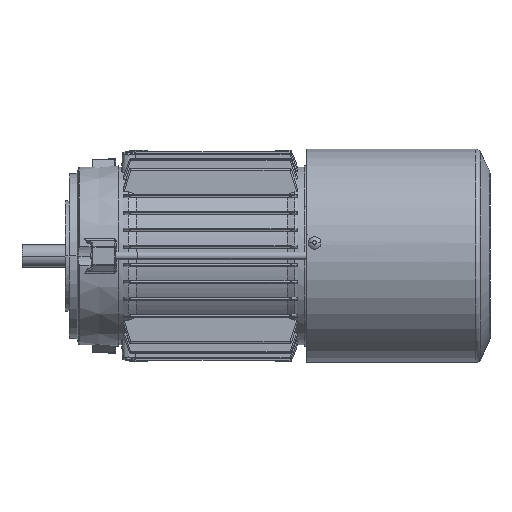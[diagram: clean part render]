
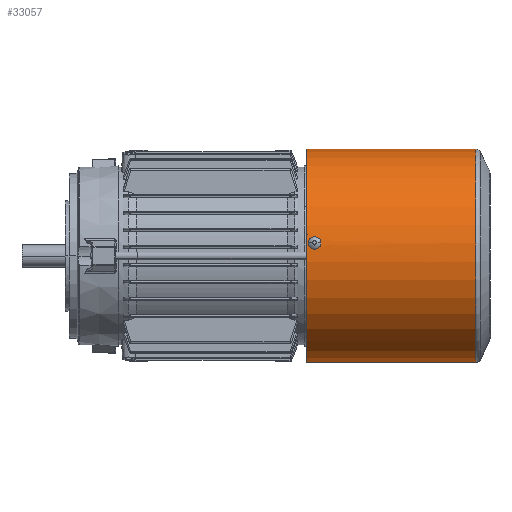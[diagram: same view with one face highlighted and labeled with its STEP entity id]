
A CAD part, front view. The second image highlights one B-rep face of the part: STEP entity #33057.
In plain terms, the highlighted cylindrical face has radius 68 mm (diameter 136 mm), a partial arc.
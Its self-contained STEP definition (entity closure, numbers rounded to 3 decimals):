
#761 = CARTESIAN_POINT ( 'NONE',  ( -1.987, 111.762, 67.971 ) ) ;
#1088 = CARTESIAN_POINT ( 'NONE',  ( 0.134, 113.5, 68. ) ) ;
#4831 = CARTESIAN_POINT ( 'NONE',  ( 1.321, 109.992, 67.987 ) ) ;
#5174 = CARTESIAN_POINT ( 'NONE',  ( -1.591, 110.281, 67.981 ) ) ;
#8825 = CARTESIAN_POINT ( 'NONE',  ( -1.898, 112.145, 67.974 ) ) ;
#9028 = CIRCLE ( 'NONE', #28108, 68. ) ;
#9161 = CARTESIAN_POINT ( 'NONE',  ( 0.519, 113.436, 67.998 ) ) ;
#12893 = CARTESIAN_POINT ( 'NONE',  ( 1.003, 109.765, 67.993 ) ) ;
#13058 = VECTOR ( 'NONE', #71489, 1000. ) ;
#13243 = CARTESIAN_POINT ( 'NONE',  ( -1.797, 110.613, 67.976 ) ) ;
#15516 = LINE ( 'NONE', #55661, #13058 ) ;
#15671 = CARTESIAN_POINT ( 'NONE',  ( 0., 139.861, 0. ) ) ;
#16860 = CARTESIAN_POINT ( 'NONE',  ( -1.736, 112.502, 67.978 ) ) ;
#17196 = CARTESIAN_POINT ( 'NONE',  ( 0.888, 113.297, 67.994 ) ) ;
#20948 = CARTESIAN_POINT ( 'NONE',  ( 0.643, 109.602, 67.997 ) ) ;
#21292 = CARTESIAN_POINT ( 'NONE',  ( -1.936, 110.982, 67.972 ) ) ;
#23268 = AXIS2_PLACEMENT_3D ( 'NONE', #41892, #98078, #50019 ) ;
#23308 = VERTEX_POINT ( 'NONE', #83995 ) ;
#23776 = DIRECTION ( 'NONE',  ( 0., 1., 0. ) ) ;
#24937 = CARTESIAN_POINT ( 'NONE',  ( -1.506, 112.822, 67.983 ) ) ;
#25278 = CARTESIAN_POINT ( 'NONE',  ( 1.22, 113.09, 67.989 ) ) ;
#25743 = ORIENTED_EDGE ( 'NONE', *, *, #82461, .F. ) ;
#25772 = DIRECTION ( 'NONE',  ( 0., 1., 0. ) ) ;
#28108 = AXIS2_PLACEMENT_3D ( 'NONE', #73952, #25772, #81965 ) ;
#28669 = CARTESIAN_POINT ( 'NONE',  ( 2., 111.5, 67.971 ) ) ;
#29028 = CARTESIAN_POINT ( 'NONE',  ( 0.262, 109.513, 68. ) ) ;
#29385 = CARTESIAN_POINT ( 'NONE',  ( -2., 111.368, 67.971 ) ) ;
#29655 = VERTEX_POINT ( 'NONE', #32292 ) ;
#32292 = CARTESIAN_POINT ( 'NONE',  ( -68., 9.011, 0. ) ) ;
#33018 = CARTESIAN_POINT ( 'NONE',  ( -1.221, 113.089, 67.989 ) ) ;
#33057 = ADVANCED_FACE ( 'NONE', ( #93082, #74230 ), #50358, .T. ) ;
#33362 = CARTESIAN_POINT ( 'NONE',  ( 1.6, 112.729, 67.981 ) ) ;
#33619 = CARTESIAN_POINT ( 'NONE',  ( -68., 139.861, 0. ) ) ;
#36388 = CARTESIAN_POINT ( 'NONE',  ( 1.987, 111.237, 67.971 ) ) ;
#36729 = CARTESIAN_POINT ( 'NONE',  ( 1.898, 110.856, 67.974 ) ) ;
#37082 = CARTESIAN_POINT ( 'NONE',  ( -0.262, 109.5, 68. ) ) ;
#38518 = VECTOR ( 'NONE', #97555, 1000. ) ;
#41123 = CARTESIAN_POINT ( 'NONE',  ( -0.886, 113.298, 67.994 ) ) ;
#41471 = CARTESIAN_POINT ( 'NONE',  ( 1.948, 112.024, 67.972 ) ) ;
#41579 = CARTESIAN_POINT ( 'NONE',  ( 2., 111.5, 67.971 ) ) ;
#41892 = CARTESIAN_POINT ( 'NONE',  ( 0., 116.5, 0. ) ) ;
#44874 = CARTESIAN_POINT ( 'NONE',  ( 1.735, 110.497, 67.978 ) ) ;
#45222 = CARTESIAN_POINT ( 'NONE',  ( -1.006, 109.752, 67.993 ) ) ;
#47053 = ORIENTED_EDGE ( 'NONE', *, *, #100772, .T. ) ;
#48598 = CARTESIAN_POINT ( 'NONE',  ( 68., 116.5, 0. ) ) ;
#49024 = B_SPLINE_CURVE_WITH_KNOTS ( 'NONE', 3,
 ( #28669, #76832, #36388, #84866, #36729, #92980, #44874, #101026, #52932, #4831, #61032, #12893, #69113, #20948, #77171, #29028, #85218, #37082, #93310, #45222, #101365, #53280, #5174, #61379, #13243, #69479, #21292, #77512, #29385, #85585 ),
 .UNSPECIFIED., .F., .F.,
 ( 4, 2, 2, 2, 2, 2, 2, 2, 2, 2, 2, 2, 2, 2, 4 ),
 ( 0.003, 0.004, 0.004, 0.004, 0.005, 0.005, 0.005, 0.006, 0.006, 0.007, 0.008, 0.008, 0.009, 0.009, 0.009 ),
 .UNSPECIFIED. ) ;
#49234 = CARTESIAN_POINT ( 'NONE',  ( -0.263, 113.5, 68. ) ) ;
#49465 = EDGE_CURVE ( 'NONE', #29655, #23308, #81219, .T. ) ;
#49586 = CARTESIAN_POINT ( 'NONE',  ( 2., 111.5, 67.971 ) ) ;
#50019 = DIRECTION ( 'NONE',  ( -1., 0., 0. ) ) ;
#50344 = EDGE_LOOP ( 'NONE', ( #54025, #83463, #25743, #63714 ) ) ;
#50358 = CYLINDRICAL_SURFACE ( 'NONE', #60079, 68. ) ;
#51222 = EDGE_CURVE ( 'NONE', #91902, #61130, #49024, .T. ) ;
#52932 = CARTESIAN_POINT ( 'NONE',  ( 1.507, 110.179, 67.983 ) ) ;
#53280 = CARTESIAN_POINT ( 'NONE',  ( -1.506, 110.178, 67.983 ) ) ;
#54025 = ORIENTED_EDGE ( 'NONE', *, *, #104027, .T. ) ;
#55661 = CARTESIAN_POINT ( 'NONE',  ( 68., 139.861, 0. ) ) ;
#56931 = CARTESIAN_POINT ( 'NONE',  ( -1.936, 112.018, 67.972 ) ) ;
#57294 = CARTESIAN_POINT ( 'NONE',  ( 0.264, 113.487, 68. ) ) ;
#58859 = CARTESIAN_POINT ( 'NONE',  ( 68., 9.011, 0. ) ) ;
#60079 = AXIS2_PLACEMENT_3D ( 'NONE', #15671, #23776, #63866 ) ;
#61032 = CARTESIAN_POINT ( 'NONE',  ( 1.219, 109.909, 67.989 ) ) ;
#61130 = VERTEX_POINT ( 'NONE', #86340 ) ;
#61379 = CARTESIAN_POINT ( 'NONE',  ( -1.736, 110.498, 67.978 ) ) ;
#63714 = ORIENTED_EDGE ( 'NONE', *, *, #49465, .F. ) ;
#63866 = DIRECTION ( 'NONE',  ( -1., 0., 0. ) ) ;
#63997 = CARTESIAN_POINT ( 'NONE',  ( -2., 111.5, 67.971 ) ) ;
#65043 = CARTESIAN_POINT ( 'NONE',  ( -1.797, 112.387, 67.976 ) ) ;
#65387 = CARTESIAN_POINT ( 'NONE',  ( 0.646, 113.397, 67.997 ) ) ;
#69113 = CARTESIAN_POINT ( 'NONE',  ( 0.886, 109.702, 67.994 ) ) ;
#69479 = CARTESIAN_POINT ( 'NONE',  ( -1.898, 110.855, 67.974 ) ) ;
#71489 = DIRECTION ( 'NONE',  ( 0., 1., 0. ) ) ;
#73096 = CARTESIAN_POINT ( 'NONE',  ( -1.591, 112.719, 67.981 ) ) ;
#73104 = VERTEX_POINT ( 'NONE', #58859 ) ;
#73452 = CARTESIAN_POINT ( 'NONE',  ( 1.003, 113.235, 67.993 ) ) ;
#73952 = CARTESIAN_POINT ( 'NONE',  ( 0., 9.011, 0. ) ) ;
#74230 = FACE_OUTER_BOUND ( 'NONE', #50344, .T. ) ;
#74424 = ORIENTED_EDGE ( 'NONE', *, *, #51222, .T. ) ;
#76832 = CARTESIAN_POINT ( 'NONE',  ( 2., 111.37, 67.971 ) ) ;
#77171 = CARTESIAN_POINT ( 'NONE',  ( 0.519, 109.564, 67.998 ) ) ;
#77512 = CARTESIAN_POINT ( 'NONE',  ( -1.987, 111.238, 67.971 ) ) ;
#80066 = VERTEX_POINT ( 'NONE', #48598 ) ;
#81114 = CARTESIAN_POINT ( 'NONE',  ( -1.322, 113.007, 67.987 ) ) ;
#81219 = LINE ( 'NONE', #33619, #38518 ) ;
#81461 = CARTESIAN_POINT ( 'NONE',  ( 1.323, 113.005, 67.987 ) ) ;
#81965 = DIRECTION ( 'NONE',  ( -1., 0., 0. ) ) ;
#82461 = EDGE_CURVE ( 'NONE', #23308, #80066, #103229, .T. ) ;
#83463 = ORIENTED_EDGE ( 'NONE', *, *, #84789, .T. ) ;
#83995 = CARTESIAN_POINT ( 'NONE',  ( -68., 116.5, 0. ) ) ;
#84789 = EDGE_CURVE ( 'NONE', #73104, #80066, #15516, .T. ) ;
#84866 = CARTESIAN_POINT ( 'NONE',  ( 1.936, 110.981, 67.972 ) ) ;
#85218 = CARTESIAN_POINT ( 'NONE',  ( 0.13, 109.5, 68. ) ) ;
#85585 = CARTESIAN_POINT ( 'NONE',  ( -2., 111.5, 67.971 ) ) ;
#86340 = CARTESIAN_POINT ( 'NONE',  ( -2., 111.5, 67.971 ) ) ;
#86652 = EDGE_LOOP ( 'NONE', ( #47053, #74424 ) ) ;
#88906 = CARTESIAN_POINT ( 'NONE',  ( -2., 111.632, 67.971 ) ) ;
#89245 = CARTESIAN_POINT ( 'NONE',  ( -1.003, 113.235, 67.993 ) ) ;
#89590 = CARTESIAN_POINT ( 'NONE',  ( 1.748, 112.505, 67.978 ) ) ;
#91902 = VERTEX_POINT ( 'NONE', #41579 ) ;
#92285 = B_SPLINE_CURVE_WITH_KNOTS ( 'NONE', 3,
 ( #63997, #88906, #761, #56931, #8825, #65043, #16860, #73096, #24937, #81114, #33018, #89245, #41123, #97315, #49234, #1088, #57294, #9161, #65387, #17196, #73452, #25278, #81461, #33362, #89590, #41471, #97666, #49586 ),
 .UNSPECIFIED., .F., .F.,
 ( 4, 2, 2, 2, 2, 2, 2, 2, 2, 2, 2, 2, 2, 4 ),
 ( 0.009, 0.01, 0.01, 0.011, 0.011, 0.011, 0.012, 0.013, 0.013, 0.013, 0.014, 0.014, 0.015, 0.016 ),
 .UNSPECIFIED. ) ;
#92980 = CARTESIAN_POINT ( 'NONE',  ( 1.798, 110.614, 67.976 ) ) ;
#93082 = FACE_BOUND ( 'NONE', #86652, .T. ) ;
#93310 = CARTESIAN_POINT ( 'NONE',  ( -0.525, 109.553, 67.998 ) ) ;
#97315 = CARTESIAN_POINT ( 'NONE',  ( -0.525, 113.447, 67.998 ) ) ;
#97555 = DIRECTION ( 'NONE',  ( 0., 1., 0. ) ) ;
#97666 = CARTESIAN_POINT ( 'NONE',  ( 2., 111.761, 67.971 ) ) ;
#98078 = DIRECTION ( 'NONE',  ( 0., 1., 0. ) ) ;
#100772 = EDGE_CURVE ( 'NONE', #61130, #91902, #92285, .T. ) ;
#101026 = CARTESIAN_POINT ( 'NONE',  ( 1.59, 110.28, 67.981 ) ) ;
#101365 = CARTESIAN_POINT ( 'NONE',  ( -1.23, 109.901, 67.989 ) ) ;
#103229 = CIRCLE ( 'NONE', #23268, 68. ) ;
#104027 = EDGE_CURVE ( 'NONE', #29655, #73104, #9028, .T. ) ;
